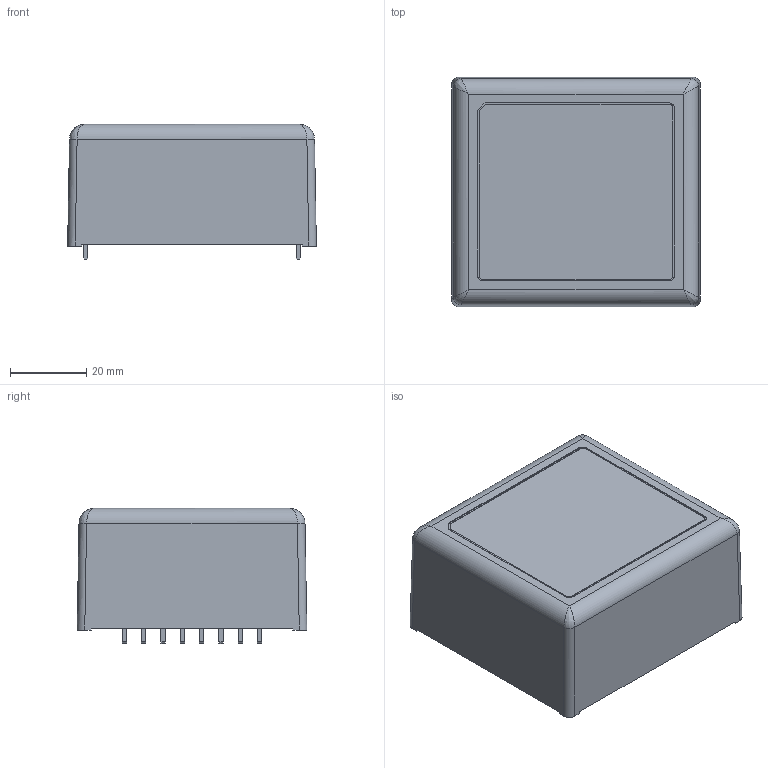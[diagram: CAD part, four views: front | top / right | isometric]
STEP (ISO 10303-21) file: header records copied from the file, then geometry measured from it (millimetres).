
FILE_DESCRIPTION (( 'STEP AP214' ), '1' );
FILE_NAME ('1213100001_DP50IP-B.STEP', '2020-08-18T14:30:31', ( '' ), ( '' ), 'SwSTEP 2.0', 'SolidWorks 2019', '' );
FILE_SCHEMA (( 'AUTOMOTIVE_DESIGN' ));
Length unit declared in the file: millimetre
Products named in the file (1): 1213100001_DP50IP-B
Bounding box: 65.4 x 60.4 x 35.59 mm (x, y, z)
Surface area: 20717.7 mm2 (no closed solid volume)
Topology: 0 solids, 5 shells, 150 faces, 608 edges, 428 vertices
Faces by surface type: plane 120, cylinder 19, bspline 8, cone 3
Entity records: 8271 total; most frequent: CARTESIAN_POINT 1887, ORIENTED_EDGE 976, DIRECTION 838, EDGE_CURVE 604, VECTOR 520, LINE 520, VERTEX_POINT 428, AXIS2_PLACEMENT_3D 159
